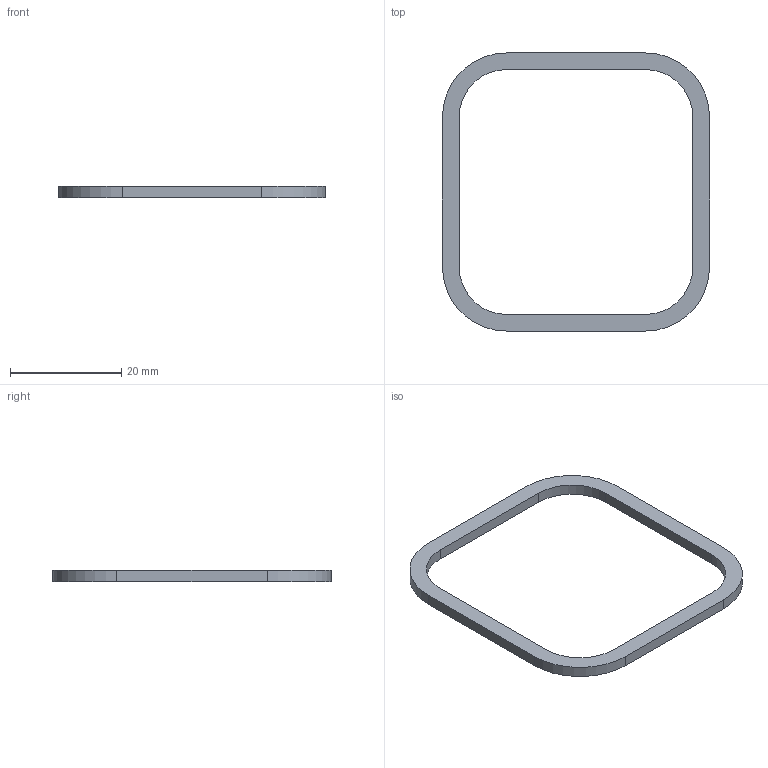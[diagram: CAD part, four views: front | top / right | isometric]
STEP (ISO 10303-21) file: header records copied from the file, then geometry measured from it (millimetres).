
FILE_DESCRIPTION(/* description */ (''),/* implementation_level */ '2;1');
FILE_NAME(/* name */ '12_Speaker_Frame.step',/* time_stamp */ '2026-09-20T10:25:49-07:00',/* author */ (''),/* organization */ (''),/* preprocessor_version */ 'ST-DEVELOPER v20.2',/* originating_system */ 'Autodesk Translation Framework v15.15.0.0',/* authorisation */ '');
FILE_SCHEMA (('AUTOMOTIVE_DESIGN { 1 0 10303 214 3 1 1 }'));
Length unit declared in the file: millimetre
Products named in the file (1): 2026-09-20-10-25-49-137
Bounding box: 48 x 50 x 2 mm (x, y, z)
Volume: 1001 mm3; surface area: 1668.3 mm2
Topology: 1 solids, 1 shells, 18 faces, 48 edges, 32 vertices
Faces by surface type: plane 10, cylinder 8
Entity records: 605 total; most frequent: DIRECTION 102, CARTESIAN_POINT 99, ORIENTED_EDGE 96, EDGE_CURVE 48, AXIS2_PLACEMENT_3D 35, LINE 32, VECTOR 32, VERTEX_POINT 32
